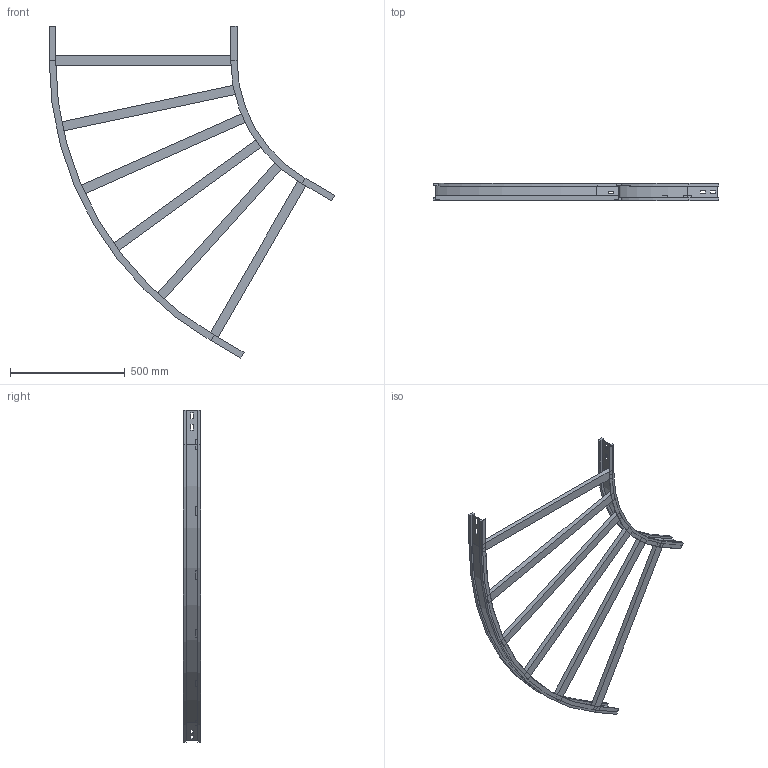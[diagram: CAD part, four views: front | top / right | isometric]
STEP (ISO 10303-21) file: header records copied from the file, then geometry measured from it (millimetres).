
FILE_DESCRIPTION (( 'STEP AP214' ), '1' );
FILE_NAME ('13S6C800.step', '2025-02-21T16:08:37', ( '' ), ( '' ), 'SwSTEP 2.0', 'SolidWorks 2023', '' );
FILE_SCHEMA (( 'AUTOMOTIVE_DESIGN' ));
Length unit declared in the file: millimetre
Products named in the file (4): LONGH.ESTERNO 60°_H75_R600+800; TRAVERSINO_800; 13S6C800; LONGH.INTERNO 60°_H75_R600
Assembly tree (8 placements, depth 2):
  13S6C800
    LONGH.INTERNO 60°_H75_R600
    LONGH.ESTERNO 60°_H75_R600+800
    TRAVERSINO_800  x6
Bounding box: 1243.4 x 75 x 1445.23 mm (x, y, z)
Volume: 5198383.2 mm3; surface area: 1253044.6 mm2
Topology: 8 solids, 8 shells, 144 faces, 336 edges, 208 vertices
Faces by surface type: plane 132, cylinder 12
Entity records: 3413 total; most frequent: CARTESIAN_POINT 569, ORIENTED_EDGE 552, DIRECTION 550, EDGE_CURVE 276, LINE 252, VECTOR 252, VERTEX_POINT 168, AXIS2_PLACEMENT_3D 149
